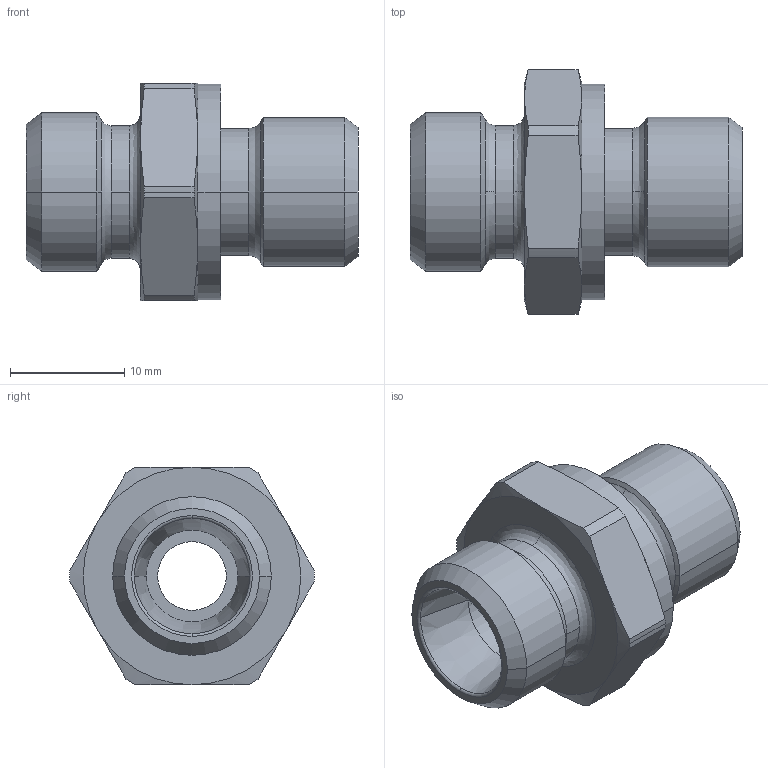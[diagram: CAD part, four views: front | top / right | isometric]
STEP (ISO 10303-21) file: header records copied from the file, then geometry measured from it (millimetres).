
FILE_DESCRIPTION((''),'2;1');
FILE_NAME('100505.stp','2007-10-30T14:18:02',(''),(''),'AutoCAD STEP 2000i','AutoCAD 2000i',', , ');
FILE_SCHEMA(('CONFIG_CONTROL_DESIGN'));
Length unit declared in the file: millimetre
Products named in the file (2): 100505.0; CHIAVE SMUSSATA#0
Assembly tree (1 placements, depth 2):
  100505.0
    CHIAVE SMUSSATA#0
Bounding box: 29 x 21.4 x 19 mm (x, y, z)
Volume: 3636.6 mm3; surface area: 2586.5 mm2
Topology: 1 solids, 1 shells, 75 faces, 185 edges, 117 vertices
Faces by surface type: cylinder 24, cone 24, plane 13, bspline 12, torus 2
Entity records: 2835 total; most frequent: CARTESIAN_POINT 955, DIRECTION 410, ORIENTED_EDGE 370, EDGE_CURVE 185, AXIS2_PLACEMENT_3D 184, CIRCLE 119, VERTEX_POINT 117, EDGE_LOOP 82
